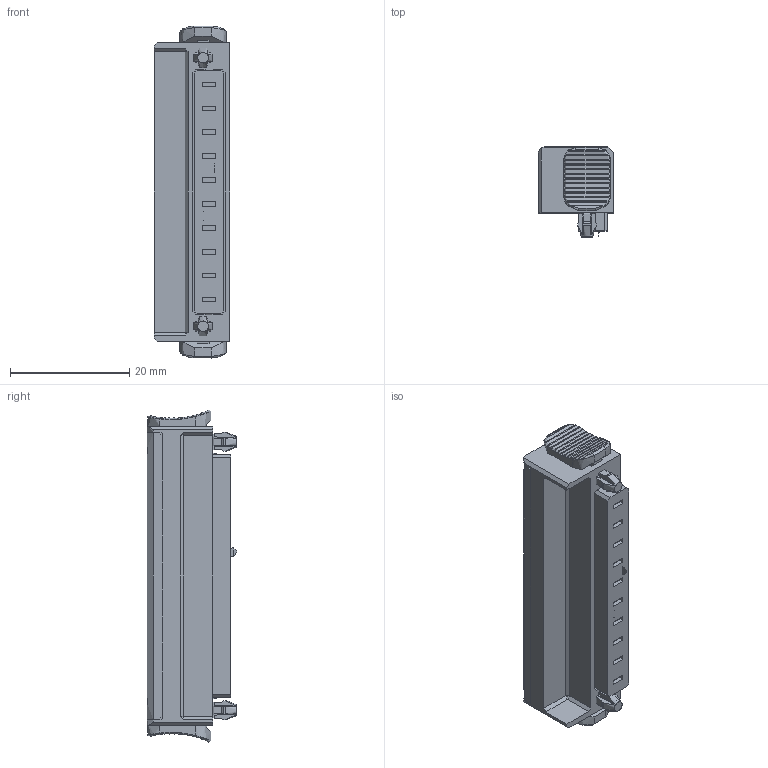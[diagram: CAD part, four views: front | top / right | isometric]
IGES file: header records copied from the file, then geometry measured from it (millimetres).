
Global section: file name: 21.10.212.113.2 v2; native system: unknown; preprocessor: unknown; author: unknown; organization: unknown; date: 20221117.080429; units: millimetre
Bounding box: 12.7 x 15.02 x 55.62 mm (x, y, z)
Volume: 5703.2 mm3; surface area: 5056.8 mm2
Topology: 1 solids, 1 shells, 1452 faces, 4166 edges, 2694 vertices
Faces by surface type: bspline 1452
